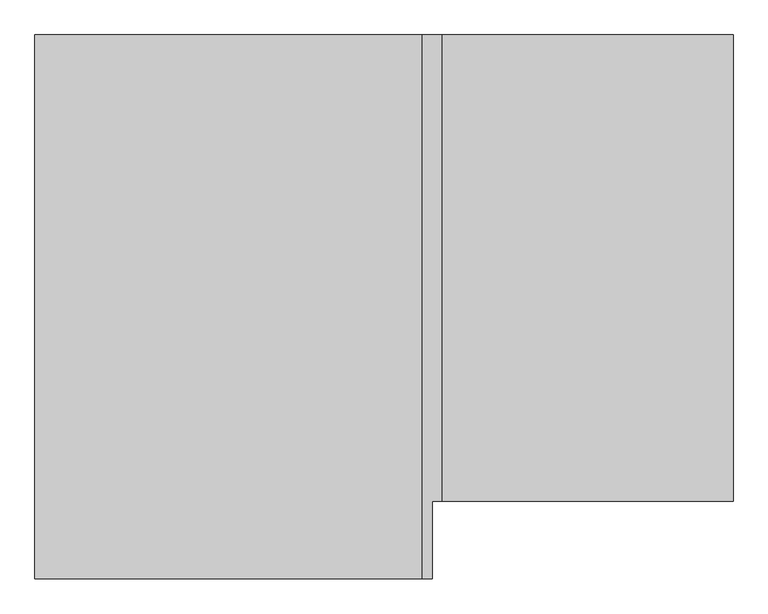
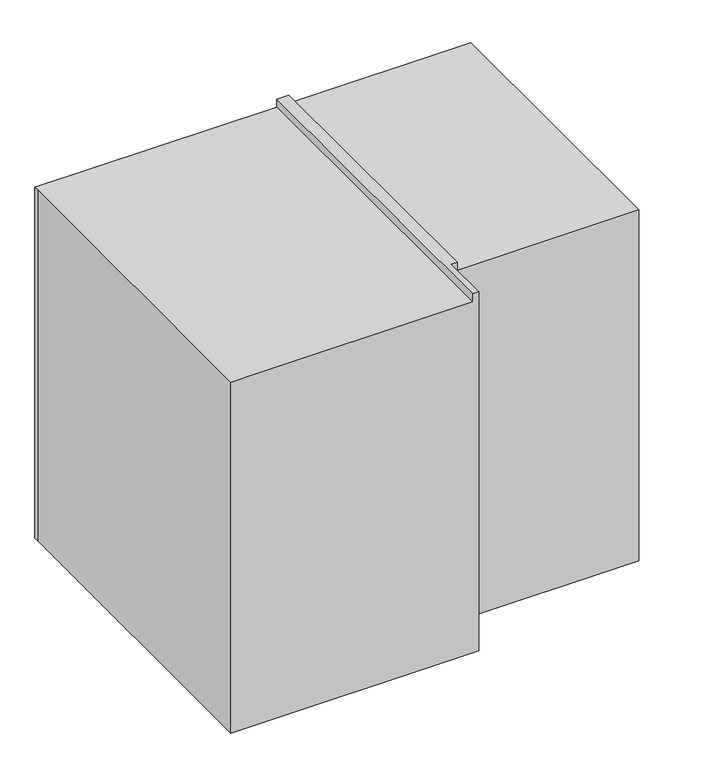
"""IFC4 building model written with IfcOpenShell, lengths in millimetres: proxy geometry."""

from ifc_helpers import new_model, si_unit, origin, place, context, project, spatial, faceted_brep, source, transform, mapped, element, save


def generic_models_e395a5af(model_context):
    return source(origin(), model_context, "Body", "Brep", [
        faceted_brep([(-21494.9988284, -18600.7903364, 3130.0), (-21494.9988284, -18200.7903364, 3130.0), (-21444.9988284, -18200.7903364, 3130.0), (-21444.9988284, -15800.0, 3130.0), (-21544.9988284, -15800.0, 3130.0), (-21544.9988284, -18600.7903364, 3130.0), (-23539.9988284, -15800.0, 0.0), (-19944.9988284, -15800.0, 0.0), (-19944.9988284, -18200.7903364, 0.0), (-21494.9988284, -18200.7903364, 0.0), (-21494.9988284, -18600.7903364, 0.0), (-23539.9988284, -18600.7903364, 0.0), (-23539.9988284, -15837.769599, 0.0), (-23539.9988284, -15800.0, 3060.0), (-21544.9988284, -15800.0, 3060.0), (-21444.9988284, -15800.0, 3060.0), (-19944.9988284, -15800.0, 3060.0), (-23539.9988284, -15837.769599, 3060.0), (-23539.9988284, -18600.7903364, 3060.0), (-21544.9988284, -18600.7903364, 3060.0), (-19944.9988284, -18200.7903364, 3060.0), (-21444.9988284, -18200.7903364, 3060.0)], [[[0, 1, 2, 3, 4, 5]], [[6, 7, 8, 9, 10, 11, 12]], [[7, 6, 13, 14, 4, 3, 15, 16]], [[6, 12, 17, 13]], [[12, 11, 18, 17]], [[11, 10, 0, 5, 19, 18]], [[1, 0, 10, 9]], [[9, 8, 20, 21, 2, 1]], [[8, 7, 16, 20]], [[19, 14, 13, 17, 18]], [[14, 19, 5, 4]], [[15, 21, 20, 16]], [[21, 15, 3, 2]]]),
    ])


if __name__ == "__main__":
    model = new_model("IFC4")
    model_context = context("Model", 3, world=origin())
    ifc_project = project(units=[si_unit("LENGTHUNIT", "METRE", prefix="MILLI")], contexts=[model_context])
    site = spatial("IfcSite", under=ifc_project)
    building = spatial("IfcBuilding", under=site)
    placement = place(None, origin())
    generic_models_shape = generic_models_e395a5af(model_context)
    element("IfcBuildingElementProxy", 1, Name="Generic Models", at=placement, inside=building, context=model_context, shape_type="MappedRepresentation", body=[
        mapped(generic_models_shape, transform((0.0, 0.0, 0.0), x_axis=(1.0, 0.0, 0.0), y_axis=(0.0, 1.0, 0.0), z_axis=(0.0, 0.0, 1.0))),
    ])
    save(model, "model.ifc")
